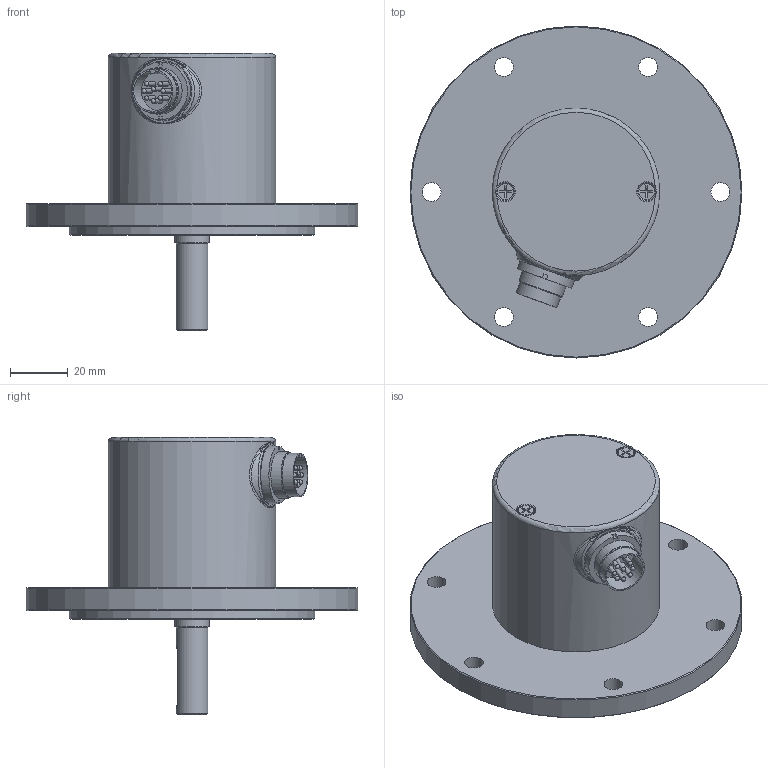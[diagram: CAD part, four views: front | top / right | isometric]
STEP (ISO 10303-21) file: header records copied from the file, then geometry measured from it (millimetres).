
FILE_DESCRIPTION((''),'2;1');
FILE_NAME('V:\Wachendorff Automation\Abteilungsübergreifende Dateien\WDG-Artikel\1\115MxxxxSH8\04_Mechan_Konstruktionsunterlagen\115MxxxxSH8.stp','2013-08-12T14:14:47',('jas'),(''),'Autodesk Inventor 2008','Autodesk Inventor 2008','');
FILE_SCHEMA(('AUTOMOTIVE_DESIGN { 1 0 10303 214 1 1 1 1 }'));
Length unit declared in the file: millimetre
Products named in the file (1): Bauteil51
Bounding box: 115 x 115 x 96 mm (x, y, z)
Volume: 150961.7 mm3; surface area: 63019.3 mm2
Topology: 13 solids, 13 shells, 405 faces, 886 edges, 533 vertices
Faces by surface type: plane 113, bspline 101, cylinder 76, cone 55, sphere 36, torus 24
Full cylindrical faces by diameter (mm): 1.1 x8, 1.6 x8, 3 x4, 5.5 x2, 11 x1, 11.6 x1, 12 x3, 12.7 x1, 13.5 x1, 14.5 x1, 15 x1, 16 x2, 17 x6, 18 x2, 20 x2, 23.4 x4, 24.8 x8, 25 x1, 27.85 x1, 28 x1, 53.5 x1, 56 x2, 56.05 x1, 58 x1, 85 x1, 115 x1
Entity records: 20323 total; most frequent: CARTESIAN_POINT 12316, DIRECTION 1540, ORIENTED_EDGE 1288, AXIS2_PLACEMENT_3D 711, EDGE_CURVE 644, EDGE_LOOP 642, VERTEX_POINT 476, CIRCLE 418
